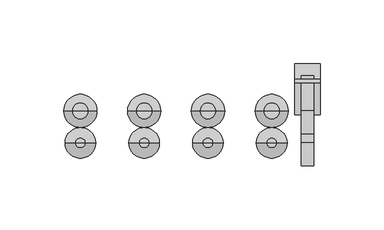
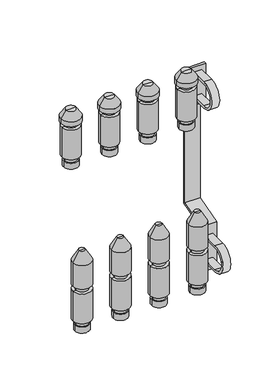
"""IFC4 building model written with IfcOpenShell, lengths in millimetres: valve geometry, PL CZ_Manifold_FT-VA : 04 circuits."""

from ifc_helpers import new_model, si_unit, point, frame, frame_2d, origin, origin_2d, place, context, project, spatial, polyline, circle_curve, trimmed, segment, composite_curve, outline, extrude, source, transform, mapped, element, save
from ifc_brep_helpers import plane_surface, cylinder_surface, revolved_surface, advanced_brep


def valve_cedec59f(model_context):
    return source(origin(), model_context, "Body", "SolidModel", [
        advanced_brep(
        [(128.5, 0.0, -35.11267), (147.5, 0.0, -35.11267), (138.0, 0.0, -35.11267), (128.5, 0.0, -27.0369646), (147.5, 0.0, -27.0369646), (130.0, 0.0, -27.0369646), (146.0, 0.0, -27.0369646), (130.0, 0.0, -20.330253), (146.0, 0.0, -20.330253), (126.0, 0.0, -20.330253), (150.0, 0.0, -20.330253), (126.0, 0.0, 20.330253), (150.0, 0.0, 20.330253), (130.0, 0.0, 20.330253), (146.0, 0.0, 20.330253), (130.0, 0.0, 27.0474786), (146.0, 0.0, 27.0474786), (126.0, 0.0, 27.0474786), (150.0, 0.0, 27.0474786), (126.0, 0.0, 59.4084325), (150.0, 0.0, 59.4084325), (134.0, 0.0, 73.264839), (142.0, 0.0, 73.264839), (138.0, 0.0, 73.264839)],
        [
            (0, 1, circle_curve(frame((138.0, 0.0, -35.11267), z_axis=(0.0, 0.0, -1.0), x_axis=(1.0, 0.0, 0.0)), 9.5)),
            (1, 2),
            (2, 0),
            (1, 0, circle_curve(frame((138.0, 0.0, -35.11267), z_axis=(0.0, 0.0, -1.0), x_axis=(1.0, 0.0, 0.0)), 9.5)),
            (3, 4, circle_curve(frame((138.0, 0.0, -27.0369646), z_axis=(0.0, 0.0, -1.0), x_axis=(1.0, 0.0, 0.0)), 9.5)),
            (4, 1),
            (0, 3),
            (4, 3, circle_curve(frame((138.0, 0.0, -27.0369646), z_axis=(0.0, 0.0, -1.0), x_axis=(1.0, 0.0, 0.0)), 9.5)),
            (5, 6, circle_curve(frame((138.0, 0.0, -27.0369646), z_axis=(0.0, 0.0, -1.0), x_axis=(1.0, 0.0, 0.0)), 8.0)),
            (6, 4),
            (3, 5),
            (6, 5, circle_curve(frame((138.0, 0.0, -27.0369646), z_axis=(0.0, 0.0, -1.0), x_axis=(1.0, 0.0, 0.0)), 8.0)),
            (7, 8, circle_curve(frame((138.0, 0.0, -20.330253), z_axis=(0.0, 0.0, -1.0), x_axis=(1.0, 0.0, 0.0)), 8.0)),
            (8, 6),
            (5, 7),
            (8, 7, circle_curve(frame((138.0, 0.0, -20.330253), z_axis=(0.0, 0.0, -1.0), x_axis=(1.0, 0.0, 0.0)), 8.0)),
            (9, 10, circle_curve(frame((138.0, 0.0, -20.330253), z_axis=(0.0, 0.0, -1.0), x_axis=(1.0, 0.0, 0.0)), 12.0)),
            (10, 8),
            (7, 9),
            (10, 9, circle_curve(frame((138.0, 0.0, -20.330253), z_axis=(0.0, 0.0, -1.0), x_axis=(1.0, 0.0, 0.0)), 12.0)),
            (11, 12, circle_curve(frame((138.0, 0.0, 20.330253), z_axis=(0.0, 0.0, -1.0), x_axis=(1.0, 0.0, 0.0)), 12.0)),
            (12, 10),
            (9, 11),
            (12, 11, circle_curve(frame((138.0, 0.0, 20.330253), z_axis=(0.0, 0.0, -1.0), x_axis=(1.0, 0.0, 0.0)), 12.0)),
            (13, 14, circle_curve(frame((138.0, 0.0, 20.330253), z_axis=(0.0, 0.0, -1.0), x_axis=(1.0, 0.0, 0.0)), 8.0)),
            (14, 12),
            (11, 13),
            (14, 13, circle_curve(frame((138.0, 0.0, 20.330253), z_axis=(0.0, 0.0, -1.0), x_axis=(1.0, 0.0, 0.0)), 8.0)),
            (15, 16, circle_curve(frame((138.0, 0.0, 27.0474786), z_axis=(0.0, 0.0, -1.0), x_axis=(1.0, 0.0, 0.0)), 8.0)),
            (16, 14),
            (13, 15),
            (16, 15, circle_curve(frame((138.0, 0.0, 27.0474786), z_axis=(0.0, 0.0, -1.0), x_axis=(1.0, 0.0, 0.0)), 8.0)),
            (17, 18, circle_curve(frame((138.0, 0.0, 27.0474786), z_axis=(0.0, 0.0, -1.0), x_axis=(1.0, 0.0, 0.0)), 12.0)),
            (18, 16),
            (15, 17),
            (18, 17, circle_curve(frame((138.0, 0.0, 27.0474786), z_axis=(0.0, 0.0, -1.0), x_axis=(1.0, 0.0, 0.0)), 12.0)),
            (19, 20, circle_curve(frame((138.0, 0.0, 59.4084325), z_axis=(0.0, 0.0, -1.0), x_axis=(1.0, 0.0, 0.0)), 12.0)),
            (20, 18),
            (17, 19),
            (20, 19, circle_curve(frame((138.0, 0.0, 59.4084325), z_axis=(0.0, 0.0, -1.0), x_axis=(1.0, 0.0, 0.0)), 12.0)),
            (21, 22, circle_curve(frame((138.0, 0.0, 73.264839), z_axis=(0.0, 0.0, -1.0), x_axis=(1.0, 0.0, 0.0)), 4.0)),
            (22, 20),
            (19, 21),
            (22, 21, circle_curve(frame((138.0, 0.0, 73.264839), z_axis=(0.0, 0.0, -1.0), x_axis=(1.0, 0.0, 0.0)), 4.0)),
            (23, 22),
            (21, 23),
        ],
        [
            plane_surface(frame((138.0, 0.0, -35.11267), z_axis=(0.0, 0.0, -1.0), x_axis=(1.0, 0.0, 0.0))),
            cylinder_surface(frame((138.0, 0.0, 58.264839), z_axis=(0.0, 0.0, 1.0), x_axis=(1.0, 0.0, 0.0)), 9.5),
            plane_surface(frame((138.0, 0.0, -27.0369646), z_axis=(0.0, 0.0, 1.0), x_axis=(1.0, 0.0, 0.0))),
            cylinder_surface(frame((138.0, 0.0, 58.264839), z_axis=(0.0, 0.0, 1.0), x_axis=(1.0, 0.0, 0.0)), 8.0),
            plane_surface(frame((138.0, 0.0, -20.330253), z_axis=(0.0, 0.0, -1.0), x_axis=(1.0, 0.0, 0.0))),
            cylinder_surface(frame((138.0, 0.0, 58.264839), z_axis=(0.0, 0.0, 1.0), x_axis=(1.0, 0.0, 0.0)), 12.0),
            plane_surface(frame((138.0, 0.0, 20.330253), z_axis=(0.0, 0.0, 1.0), x_axis=(1.0, 0.0, 0.0))),
            plane_surface(frame((138.0, 0.0, 27.0474786), z_axis=(0.0, 0.0, -1.0), x_axis=(1.0, 0.0, 0.0))),
            revolved_surface(polyline([(150.0, 0.0, 59.4084325), (142.0, 0.0, 73.264839)]), (138.0, 0.0, 58.264839), (0.0, 0.0, 1.0)),
            plane_surface(frame((138.0, 0.0, 73.264839), z_axis=(0.0, 0.0, 1.0), x_axis=(1.0, 0.0, 0.0))),
        ],
        [
            (0, [[1, 2, 3]]),
            (0, [[4, -3, -2]]),
            (1, [[5, 6, -1, 7]]),
            (1, [[8, -7, -4, -6]]),
            (2, [[9, 10, -5, 11]]),
            (2, [[12, -11, -8, -10]]),
            (3, [[13, 14, -9, 15]]),
            (3, [[16, -15, -12, -14]]),
            (4, [[17, 18, -13, 19]]),
            (4, [[20, -19, -16, -18]]),
            (5, [[21, 22, -17, 23]]),
            (5, [[24, -23, -20, -22]]),
            (6, [[25, 26, -21, 27]]),
            (6, [[28, -27, -24, -26]]),
            (3, [[29, 30, -25, 31]]),
            (3, [[32, -31, -28, -30]]),
            (7, [[33, 34, -29, 35]]),
            (7, [[36, -35, -32, -34]]),
            (5, [[37, 38, -33, 39]]),
            (5, [[40, -39, -36, -38]]),
            (8, [[41, 42, -37, 43]]),
            (8, [[44, -43, -40, -42]]),
            (9, [[45, -41, 46]]),
            (9, [[-46, -44, -45]]),
        ],
    ),
        advanced_brep(
        [(128.5, 25.0, 174.88733), (147.5, 25.0, 174.88733), (138.0, 25.0, 174.88733), (128.5, 25.0, 182.9630354), (147.5, 25.0, 182.9630354), (130.0, 25.0, 182.9630354), (146.0, 25.0, 182.9630354), (130.0, 25.0, 189.669747), (146.0, 25.0, 189.669747), (126.0, 25.0, 189.669747), (150.0, 25.0, 189.669747), (126.0, 25.0, 230.330253), (150.0, 25.0, 230.330253), (130.0, 25.0, 230.330253), (146.0, 25.0, 230.330253), (130.0, 25.0, 236.0474786), (146.0, 25.0, 236.0474786), (125.0, 25.0, 236.0474786), (151.0, 25.0, 236.0474786), (125.0, 25.0, 242.337955), (151.0, 25.0, 242.337955), (131.6551779, 25.0, 251.842534), (144.3448221, 25.0, 251.842534), (138.0, 25.0, 251.842534)],
        [
            (0, 1, circle_curve(frame((138.0, 25.0, 174.88733), z_axis=(0.0, 0.0, -1.0), x_axis=(1.0, 0.0, 0.0)), 9.5)),
            (1, 2),
            (2, 0),
            (1, 0, circle_curve(frame((138.0, 25.0, 174.88733), z_axis=(0.0, 0.0, -1.0), x_axis=(1.0, 0.0, 0.0)), 9.5)),
            (3, 4, circle_curve(frame((138.0, 25.0, 182.9630354), z_axis=(0.0, 0.0, -1.0), x_axis=(1.0, 0.0, 0.0)), 9.5)),
            (4, 1),
            (0, 3),
            (4, 3, circle_curve(frame((138.0, 25.0, 182.9630354), z_axis=(0.0, 0.0, -1.0), x_axis=(1.0, 0.0, 0.0)), 9.5)),
            (5, 6, circle_curve(frame((138.0, 25.0, 182.9630354), z_axis=(0.0, 0.0, -1.0), x_axis=(1.0, 0.0, 0.0)), 8.0)),
            (6, 4),
            (3, 5),
            (6, 5, circle_curve(frame((138.0, 25.0, 182.9630354), z_axis=(0.0, 0.0, -1.0), x_axis=(1.0, 0.0, 0.0)), 8.0)),
            (7, 8, circle_curve(frame((138.0, 25.0, 189.669747), z_axis=(0.0, 0.0, -1.0), x_axis=(1.0, 0.0, 0.0)), 8.0)),
            (8, 6),
            (5, 7),
            (8, 7, circle_curve(frame((138.0, 25.0, 189.669747), z_axis=(0.0, 0.0, -1.0), x_axis=(1.0, 0.0, 0.0)), 8.0)),
            (9, 10, circle_curve(frame((138.0, 25.0, 189.669747), z_axis=(0.0, 0.0, -1.0), x_axis=(1.0, 0.0, 0.0)), 12.0)),
            (10, 8),
            (7, 9),
            (10, 9, circle_curve(frame((138.0, 25.0, 189.669747), z_axis=(0.0, 0.0, -1.0), x_axis=(1.0, 0.0, 0.0)), 12.0)),
            (11, 12, circle_curve(frame((138.0, 25.0, 230.330253), z_axis=(0.0, 0.0, -1.0), x_axis=(1.0, 0.0, 0.0)), 12.0)),
            (12, 10),
            (9, 11),
            (12, 11, circle_curve(frame((138.0, 25.0, 230.330253), z_axis=(0.0, 0.0, -1.0), x_axis=(1.0, 0.0, 0.0)), 12.0)),
            (13, 14, circle_curve(frame((138.0, 25.0, 230.330253), z_axis=(0.0, 0.0, -1.0), x_axis=(1.0, 0.0, 0.0)), 8.0)),
            (14, 12),
            (11, 13),
            (14, 13, circle_curve(frame((138.0, 25.0, 230.330253), z_axis=(0.0, 0.0, -1.0), x_axis=(1.0, 0.0, 0.0)), 8.0)),
            (15, 16, circle_curve(frame((138.0, 25.0, 236.0474786), z_axis=(0.0, 0.0, -1.0), x_axis=(1.0, 0.0, 0.0)), 8.0)),
            (16, 14),
            (13, 15),
            (16, 15, circle_curve(frame((138.0, 25.0, 236.0474786), z_axis=(0.0, 0.0, -1.0), x_axis=(1.0, 0.0, 0.0)), 8.0)),
            (17, 18, circle_curve(frame((138.0, 25.0, 236.0474786), z_axis=(0.0, 0.0, -1.0), x_axis=(1.0, 0.0, 0.0)), 13.0)),
            (18, 16),
            (15, 17),
            (18, 17, circle_curve(frame((138.0, 25.0, 236.0474786), z_axis=(0.0, 0.0, -1.0), x_axis=(1.0, 0.0, 0.0)), 13.0)),
            (19, 20, circle_curve(frame((138.0, 25.0, 242.337955), z_axis=(0.0, 0.0, -1.0), x_axis=(1.0, 0.0, 0.0)), 13.0)),
            (20, 18),
            (17, 19),
            (20, 19, circle_curve(frame((138.0, 25.0, 242.337955), z_axis=(0.0, 0.0, -1.0), x_axis=(1.0, 0.0, 0.0)), 13.0)),
            (21, 22, circle_curve(frame((138.0, 25.0, 251.842534), z_axis=(0.0, 0.0, -1.0), x_axis=(1.0, 0.0, 0.0)), 6.3448221)),
            (22, 20),
            (19, 21),
            (22, 21, circle_curve(frame((138.0, 25.0, 251.842534), z_axis=(0.0, 0.0, -1.0), x_axis=(1.0, 0.0, 0.0)), 6.3448221)),
            (23, 22),
            (21, 23),
        ],
        [
            plane_surface(frame((138.0, 25.0, 174.88733), z_axis=(0.0, 0.0, -1.0), x_axis=(1.0, 0.0, 0.0))),
            cylinder_surface(frame((138.0, 25.0, 247.7026565), z_axis=(0.0, 0.0, 1.0), x_axis=(1.0, 0.0, 0.0)), 9.5),
            plane_surface(frame((138.0, 25.0, 182.9630354), z_axis=(0.0, 0.0, 1.0), x_axis=(1.0, 0.0, 0.0))),
            cylinder_surface(frame((138.0, 25.0, 247.7026565), z_axis=(0.0, 0.0, 1.0), x_axis=(1.0, 0.0, 0.0)), 8.0),
            plane_surface(frame((138.0, 25.0, 189.669747), z_axis=(0.0, 0.0, -1.0), x_axis=(1.0, 0.0, 0.0))),
            cylinder_surface(frame((138.0, 25.0, 247.7026565), z_axis=(0.0, 0.0, 1.0), x_axis=(1.0, 0.0, 0.0)), 12.0),
            plane_surface(frame((138.0, 25.0, 230.330253), z_axis=(0.0, 0.0, 1.0), x_axis=(1.0, 0.0, 0.0))),
            plane_surface(frame((138.0, 25.0, 236.0474786), z_axis=(0.0, 0.0, -1.0), x_axis=(1.0, 0.0, 0.0))),
            cylinder_surface(frame((138.0, 25.0, 247.7026565), z_axis=(0.0, 0.0, 1.0), x_axis=(1.0, 0.0, 0.0)), 13.0),
            revolved_surface(polyline([(151.0, 25.0, 242.337955), (144.3448221, 25.0, 251.842534)]), (138.0, 25.0, 247.7026565), (0.0, 0.0, 1.0)),
            plane_surface(frame((138.0, 25.0, 251.842534), z_axis=(0.0, 0.0, 1.0), x_axis=(1.0, 0.0, 0.0))),
        ],
        [
            (0, [[1, 2, 3]]),
            (0, [[4, -3, -2]]),
            (1, [[5, 6, -1, 7]]),
            (1, [[8, -7, -4, -6]]),
            (2, [[9, 10, -5, 11]]),
            (2, [[12, -11, -8, -10]]),
            (3, [[13, 14, -9, 15]]),
            (3, [[16, -15, -12, -14]]),
            (4, [[17, 18, -13, 19]]),
            (4, [[20, -19, -16, -18]]),
            (5, [[21, 22, -17, 23]]),
            (5, [[24, -23, -20, -22]]),
            (6, [[25, 26, -21, 27]]),
            (6, [[28, -27, -24, -26]]),
            (3, [[29, 30, -25, 31]]),
            (3, [[32, -31, -28, -30]]),
            (7, [[33, 34, -29, 35]]),
            (7, [[36, -35, -32, -34]]),
            (8, [[37, 38, -33, 39]]),
            (8, [[40, -39, -36, -38]]),
            (9, [[41, 42, -37, 43]]),
            (9, [[44, -43, -40, -42]]),
            (10, [[45, -41, 46]]),
            (10, [[-46, -44, -45]]),
        ],
    ),
        advanced_brep(
        [(78.5, 0.0, -35.11267), (97.5, 0.0, -35.11267), (88.0, 0.0, -35.11267), (78.5, 0.0, -27.0369646), (97.5, 0.0, -27.0369646), (80.0, 0.0, -27.0369646), (96.0, 0.0, -27.0369646), (80.0, 0.0, -20.330253), (96.0, 0.0, -20.330253), (76.0, 0.0, -20.330253), (100.0, 0.0, -20.330253), (76.0, 0.0, 20.330253), (100.0, 0.0, 20.330253), (80.0, 0.0, 20.330253), (96.0, 0.0, 20.330253), (80.0, 0.0, 27.0474786), (96.0, 0.0, 27.0474786), (76.0, 0.0, 27.0474786), (100.0, 0.0, 27.0474786), (76.0, 0.0, 59.4084325), (100.0, 0.0, 59.4084325), (84.0, 0.0, 73.264839), (92.0, 0.0, 73.264839), (88.0, 0.0, 73.264839)],
        [
            (0, 1, circle_curve(frame((88.0, 0.0, -35.11267), z_axis=(0.0, 0.0, -1.0), x_axis=(1.0, 0.0, 0.0)), 9.5)),
            (1, 2),
            (2, 0),
            (1, 0, circle_curve(frame((88.0, 0.0, -35.11267), z_axis=(0.0, 0.0, -1.0), x_axis=(1.0, 0.0, 0.0)), 9.5)),
            (3, 4, circle_curve(frame((88.0, 0.0, -27.0369646), z_axis=(0.0, 0.0, -1.0), x_axis=(1.0, 0.0, 0.0)), 9.5)),
            (4, 1),
            (0, 3),
            (4, 3, circle_curve(frame((88.0, 0.0, -27.0369646), z_axis=(0.0, 0.0, -1.0), x_axis=(1.0, 0.0, 0.0)), 9.5)),
            (5, 6, circle_curve(frame((88.0, 0.0, -27.0369646), z_axis=(0.0, 0.0, -1.0), x_axis=(1.0, 0.0, 0.0)), 8.0)),
            (6, 4),
            (3, 5),
            (6, 5, circle_curve(frame((88.0, 0.0, -27.0369646), z_axis=(0.0, 0.0, -1.0), x_axis=(1.0, 0.0, 0.0)), 8.0)),
            (7, 8, circle_curve(frame((88.0, 0.0, -20.330253), z_axis=(0.0, 0.0, -1.0), x_axis=(1.0, 0.0, 0.0)), 8.0)),
            (8, 6),
            (5, 7),
            (8, 7, circle_curve(frame((88.0, 0.0, -20.330253), z_axis=(0.0, 0.0, -1.0), x_axis=(1.0, 0.0, 0.0)), 8.0)),
            (9, 10, circle_curve(frame((88.0, 0.0, -20.330253), z_axis=(0.0, 0.0, -1.0), x_axis=(1.0, 0.0, 0.0)), 12.0)),
            (10, 8),
            (7, 9),
            (10, 9, circle_curve(frame((88.0, 0.0, -20.330253), z_axis=(0.0, 0.0, -1.0), x_axis=(1.0, 0.0, 0.0)), 12.0)),
            (11, 12, circle_curve(frame((88.0, 0.0, 20.330253), z_axis=(0.0, 0.0, -1.0), x_axis=(1.0, 0.0, 0.0)), 12.0)),
            (12, 10),
            (9, 11),
            (12, 11, circle_curve(frame((88.0, 0.0, 20.330253), z_axis=(0.0, 0.0, -1.0), x_axis=(1.0, 0.0, 0.0)), 12.0)),
            (13, 14, circle_curve(frame((88.0, 0.0, 20.330253), z_axis=(0.0, 0.0, -1.0), x_axis=(1.0, 0.0, 0.0)), 8.0)),
            (14, 12),
            (11, 13),
            (14, 13, circle_curve(frame((88.0, 0.0, 20.330253), z_axis=(0.0, 0.0, -1.0), x_axis=(1.0, 0.0, 0.0)), 8.0)),
            (15, 16, circle_curve(frame((88.0, 0.0, 27.0474786), z_axis=(0.0, 0.0, -1.0), x_axis=(1.0, 0.0, 0.0)), 8.0)),
            (16, 14),
            (13, 15),
            (16, 15, circle_curve(frame((88.0, 0.0, 27.0474786), z_axis=(0.0, 0.0, -1.0), x_axis=(1.0, 0.0, 0.0)), 8.0)),
            (17, 18, circle_curve(frame((88.0, 0.0, 27.0474786), z_axis=(0.0, 0.0, -1.0), x_axis=(1.0, 0.0, 0.0)), 12.0)),
            (18, 16),
            (15, 17),
            (18, 17, circle_curve(frame((88.0, 0.0, 27.0474786), z_axis=(0.0, 0.0, -1.0), x_axis=(1.0, 0.0, 0.0)), 12.0)),
            (19, 20, circle_curve(frame((88.0, 0.0, 59.4084325), z_axis=(0.0, 0.0, -1.0), x_axis=(1.0, 0.0, 0.0)), 12.0)),
            (20, 18),
            (17, 19),
            (20, 19, circle_curve(frame((88.0, 0.0, 59.4084325), z_axis=(0.0, 0.0, -1.0), x_axis=(1.0, 0.0, 0.0)), 12.0)),
            (21, 22, circle_curve(frame((88.0, 0.0, 73.264839), z_axis=(0.0, 0.0, -1.0), x_axis=(1.0, 0.0, 0.0)), 4.0)),
            (22, 20),
            (19, 21),
            (22, 21, circle_curve(frame((88.0, 0.0, 73.264839), z_axis=(0.0, 0.0, -1.0), x_axis=(1.0, 0.0, 0.0)), 4.0)),
            (23, 22),
            (21, 23),
        ],
        [
            plane_surface(frame((88.0, 0.0, -35.11267), z_axis=(0.0, 0.0, -1.0), x_axis=(1.0, 0.0, 0.0))),
            cylinder_surface(frame((88.0, 0.0, 58.264839), z_axis=(0.0, 0.0, 1.0), x_axis=(1.0, 0.0, 0.0)), 9.5),
            plane_surface(frame((88.0, 0.0, -27.0369646), z_axis=(0.0, 0.0, 1.0), x_axis=(1.0, 0.0, 0.0))),
            cylinder_surface(frame((88.0, 0.0, 58.264839), z_axis=(0.0, 0.0, 1.0), x_axis=(1.0, 0.0, 0.0)), 8.0),
            plane_surface(frame((88.0, 0.0, -20.330253), z_axis=(0.0, 0.0, -1.0), x_axis=(1.0, 0.0, 0.0))),
            cylinder_surface(frame((88.0, 0.0, 58.264839), z_axis=(0.0, 0.0, 1.0), x_axis=(1.0, 0.0, 0.0)), 12.0),
            plane_surface(frame((88.0, 0.0, 20.330253), z_axis=(0.0, 0.0, 1.0), x_axis=(1.0, 0.0, 0.0))),
            plane_surface(frame((88.0, 0.0, 27.0474786), z_axis=(0.0, 0.0, -1.0), x_axis=(1.0, 0.0, 0.0))),
            revolved_surface(polyline([(100.0, 0.0, 59.4084325), (92.0, 0.0, 73.264839)]), (88.0, 0.0, 58.264839), (0.0, 0.0, 1.0)),
            plane_surface(frame((88.0, 0.0, 73.264839), z_axis=(0.0, 0.0, 1.0), x_axis=(1.0, 0.0, 0.0))),
        ],
        [
            (0, [[1, 2, 3]]),
            (0, [[4, -3, -2]]),
            (1, [[5, 6, -1, 7]]),
            (1, [[8, -7, -4, -6]]),
            (2, [[9, 10, -5, 11]]),
            (2, [[12, -11, -8, -10]]),
            (3, [[13, 14, -9, 15]]),
            (3, [[16, -15, -12, -14]]),
            (4, [[17, 18, -13, 19]]),
            (4, [[20, -19, -16, -18]]),
            (5, [[21, 22, -17, 23]]),
            (5, [[24, -23, -20, -22]]),
            (6, [[25, 26, -21, 27]]),
            (6, [[28, -27, -24, -26]]),
            (3, [[29, 30, -25, 31]]),
            (3, [[32, -31, -28, -30]]),
            (7, [[33, 34, -29, 35]]),
            (7, [[36, -35, -32, -34]]),
            (5, [[37, 38, -33, 39]]),
            (5, [[40, -39, -36, -38]]),
            (8, [[41, 42, -37, 43]]),
            (8, [[44, -43, -40, -42]]),
            (9, [[45, -41, 46]]),
            (9, [[-46, -44, -45]]),
        ],
    ),
        advanced_brep(
        [(78.5, 25.0, 174.88733), (97.5, 25.0, 174.88733), (88.0, 25.0, 174.88733), (78.5, 25.0, 182.9630354), (97.5, 25.0, 182.9630354), (80.0, 25.0, 182.9630354), (96.0, 25.0, 182.9630354), (80.0, 25.0, 189.669747), (96.0, 25.0, 189.669747), (76.0, 25.0, 189.669747), (100.0, 25.0, 189.669747), (76.0, 25.0, 230.330253), (100.0, 25.0, 230.330253), (80.0, 25.0, 230.330253), (96.0, 25.0, 230.330253), (80.0, 25.0, 236.0474786), (96.0, 25.0, 236.0474786), (75.0, 25.0, 236.0474786), (101.0, 25.0, 236.0474786), (75.0, 25.0, 242.337955), (101.0, 25.0, 242.337955), (81.6551779, 25.0, 251.842534), (94.3448221, 25.0, 251.842534), (88.0, 25.0, 251.842534)],
        [
            (0, 1, circle_curve(frame((88.0, 25.0, 174.88733), z_axis=(0.0, 0.0, -1.0), x_axis=(1.0, 0.0, 0.0)), 9.5)),
            (1, 2),
            (2, 0),
            (1, 0, circle_curve(frame((88.0, 25.0, 174.88733), z_axis=(0.0, 0.0, -1.0), x_axis=(1.0, 0.0, 0.0)), 9.5)),
            (3, 4, circle_curve(frame((88.0, 25.0, 182.9630354), z_axis=(0.0, 0.0, -1.0), x_axis=(1.0, 0.0, 0.0)), 9.5)),
            (4, 1),
            (0, 3),
            (4, 3, circle_curve(frame((88.0, 25.0, 182.9630354), z_axis=(0.0, 0.0, -1.0), x_axis=(1.0, 0.0, 0.0)), 9.5)),
            (5, 6, circle_curve(frame((88.0, 25.0, 182.9630354), z_axis=(0.0, 0.0, -1.0), x_axis=(1.0, 0.0, 0.0)), 8.0)),
            (6, 4),
            (3, 5),
            (6, 5, circle_curve(frame((88.0, 25.0, 182.9630354), z_axis=(0.0, 0.0, -1.0), x_axis=(1.0, 0.0, 0.0)), 8.0)),
            (7, 8, circle_curve(frame((88.0, 25.0, 189.669747), z_axis=(0.0, 0.0, -1.0), x_axis=(1.0, 0.0, 0.0)), 8.0)),
            (8, 6),
            (5, 7),
            (8, 7, circle_curve(frame((88.0, 25.0, 189.669747), z_axis=(0.0, 0.0, -1.0), x_axis=(1.0, 0.0, 0.0)), 8.0)),
            (9, 10, circle_curve(frame((88.0, 25.0, 189.669747), z_axis=(0.0, 0.0, -1.0), x_axis=(1.0, 0.0, 0.0)), 12.0)),
            (10, 8),
            (7, 9),
            (10, 9, circle_curve(frame((88.0, 25.0, 189.669747), z_axis=(0.0, 0.0, -1.0), x_axis=(1.0, 0.0, 0.0)), 12.0)),
            (11, 12, circle_curve(frame((88.0, 25.0, 230.330253), z_axis=(0.0, 0.0, -1.0), x_axis=(1.0, 0.0, 0.0)), 12.0)),
            (12, 10),
            (9, 11),
            (12, 11, circle_curve(frame((88.0, 25.0, 230.330253), z_axis=(0.0, 0.0, -1.0), x_axis=(1.0, 0.0, 0.0)), 12.0)),
            (13, 14, circle_curve(frame((88.0, 25.0, 230.330253), z_axis=(0.0, 0.0, -1.0), x_axis=(1.0, 0.0, 0.0)), 8.0)),
            (14, 12),
            (11, 13),
            (14, 13, circle_curve(frame((88.0, 25.0, 230.330253), z_axis=(0.0, 0.0, -1.0), x_axis=(1.0, 0.0, 0.0)), 8.0)),
            (15, 16, circle_curve(frame((88.0, 25.0, 236.0474786), z_axis=(0.0, 0.0, -1.0), x_axis=(1.0, 0.0, 0.0)), 8.0)),
            (16, 14),
            (13, 15),
            (16, 15, circle_curve(frame((88.0, 25.0, 236.0474786), z_axis=(0.0, 0.0, -1.0), x_axis=(1.0, 0.0, 0.0)), 8.0)),
            (17, 18, circle_curve(frame((88.0, 25.0, 236.0474786), z_axis=(0.0, 0.0, -1.0), x_axis=(1.0, 0.0, 0.0)), 13.0)),
            (18, 16),
            (15, 17),
            (18, 17, circle_curve(frame((88.0, 25.0, 236.0474786), z_axis=(0.0, 0.0, -1.0), x_axis=(1.0, 0.0, 0.0)), 13.0)),
            (19, 20, circle_curve(frame((88.0, 25.0, 242.337955), z_axis=(0.0, 0.0, -1.0), x_axis=(1.0, 0.0, 0.0)), 13.0)),
            (20, 18),
            (17, 19),
            (20, 19, circle_curve(frame((88.0, 25.0, 242.337955), z_axis=(0.0, 0.0, -1.0), x_axis=(1.0, 0.0, 0.0)), 13.0)),
            (21, 22, circle_curve(frame((88.0, 25.0, 251.842534), z_axis=(0.0, 0.0, -1.0), x_axis=(1.0, 0.0, 0.0)), 6.3448221)),
            (22, 20),
            (19, 21),
            (22, 21, circle_curve(frame((88.0, 25.0, 251.842534), z_axis=(0.0, 0.0, -1.0), x_axis=(1.0, 0.0, 0.0)), 6.3448221)),
            (23, 22),
            (21, 23),
        ],
        [
            plane_surface(frame((88.0, 25.0, 174.88733), z_axis=(0.0, 0.0, -1.0), x_axis=(1.0, 0.0, 0.0))),
            cylinder_surface(frame((88.0, 25.0, 247.7026565), z_axis=(0.0, 0.0, 1.0), x_axis=(1.0, 0.0, 0.0)), 9.5),
            plane_surface(frame((88.0, 25.0, 182.9630354), z_axis=(0.0, 0.0, 1.0), x_axis=(1.0, 0.0, 0.0))),
            cylinder_surface(frame((88.0, 25.0, 247.7026565), z_axis=(0.0, 0.0, 1.0), x_axis=(1.0, 0.0, 0.0)), 8.0),
            plane_surface(frame((88.0, 25.0, 189.669747), z_axis=(0.0, 0.0, -1.0), x_axis=(1.0, 0.0, 0.0))),
            cylinder_surface(frame((88.0, 25.0, 247.7026565), z_axis=(0.0, 0.0, 1.0), x_axis=(1.0, 0.0, 0.0)), 12.0),
            plane_surface(frame((88.0, 25.0, 230.330253), z_axis=(0.0, 0.0, 1.0), x_axis=(1.0, 0.0, 0.0))),
            plane_surface(frame((88.0, 25.0, 236.0474786), z_axis=(0.0, 0.0, -1.0), x_axis=(1.0, 0.0, 0.0))),
            cylinder_surface(frame((88.0, 25.0, 247.7026565), z_axis=(0.0, 0.0, 1.0), x_axis=(1.0, 0.0, 0.0)), 13.0),
            revolved_surface(polyline([(101.0, 25.0, 242.337955), (94.3448221, 25.0, 251.842534)]), (88.0, 25.0, 247.7026565), (0.0, 0.0, 1.0)),
            plane_surface(frame((88.0, 25.0, 251.842534), z_axis=(0.0, 0.0, 1.0), x_axis=(1.0, 0.0, 0.0))),
        ],
        [
            (0, [[1, 2, 3]]),
            (0, [[4, -3, -2]]),
            (1, [[5, 6, -1, 7]]),
            (1, [[8, -7, -4, -6]]),
            (2, [[9, 10, -5, 11]]),
            (2, [[12, -11, -8, -10]]),
            (3, [[13, 14, -9, 15]]),
            (3, [[16, -15, -12, -14]]),
            (4, [[17, 18, -13, 19]]),
            (4, [[20, -19, -16, -18]]),
            (5, [[21, 22, -17, 23]]),
            (5, [[24, -23, -20, -22]]),
            (6, [[25, 26, -21, 27]]),
            (6, [[28, -27, -24, -26]]),
            (3, [[29, 30, -25, 31]]),
            (3, [[32, -31, -28, -30]]),
            (7, [[33, 34, -29, 35]]),
            (7, [[36, -35, -32, -34]]),
            (8, [[37, 38, -33, 39]]),
            (8, [[40, -39, -36, -38]]),
            (9, [[41, 42, -37, 43]]),
            (9, [[44, -43, -40, -42]]),
            (10, [[45, -41, 46]]),
            (10, [[-46, -44, -45]]),
        ],
    ),
        advanced_brep(
        [(178.5, 0.0, -35.11267), (197.5, 0.0, -35.11267), (188.0, 0.0, -35.11267), (178.5, 0.0, -27.0369646), (197.5, 0.0, -27.0369646), (180.0, 0.0, -27.0369646), (196.0, 0.0, -27.0369646), (180.0, 0.0, -20.330253), (196.0, 0.0, -20.330253), (176.0, 0.0, -20.330253), (200.0, 0.0, -20.330253), (176.0, 0.0, 20.330253), (200.0, 0.0, 20.330253), (180.0, 0.0, 20.330253), (196.0, 0.0, 20.330253), (180.0, 0.0, 27.0474786), (196.0, 0.0, 27.0474786), (176.0, 0.0, 27.0474786), (200.0, 0.0, 27.0474786), (176.0, 0.0, 59.4084325), (200.0, 0.0, 59.4084325), (184.0, 0.0, 73.264839), (192.0, 0.0, 73.264839), (188.0, 0.0, 73.264839)],
        [
            (0, 1, circle_curve(frame((188.0, 0.0, -35.11267), z_axis=(0.0, 0.0, -1.0), x_axis=(1.0, 0.0, 0.0)), 9.5)),
            (1, 2),
            (2, 0),
            (1, 0, circle_curve(frame((188.0, 0.0, -35.11267), z_axis=(0.0, 0.0, -1.0), x_axis=(1.0, 0.0, 0.0)), 9.5)),
            (3, 4, circle_curve(frame((188.0, 0.0, -27.0369646), z_axis=(0.0, 0.0, -1.0), x_axis=(1.0, 0.0, 0.0)), 9.5)),
            (4, 1),
            (0, 3),
            (4, 3, circle_curve(frame((188.0, 0.0, -27.0369646), z_axis=(0.0, 0.0, -1.0), x_axis=(1.0, 0.0, 0.0)), 9.5)),
            (5, 6, circle_curve(frame((188.0, 0.0, -27.0369646), z_axis=(0.0, 0.0, -1.0), x_axis=(1.0, 0.0, 0.0)), 8.0)),
            (6, 4),
            (3, 5),
            (6, 5, circle_curve(frame((188.0, 0.0, -27.0369646), z_axis=(0.0, 0.0, -1.0), x_axis=(1.0, 0.0, 0.0)), 8.0)),
            (7, 8, circle_curve(frame((188.0, 0.0, -20.330253), z_axis=(0.0, 0.0, -1.0), x_axis=(1.0, 0.0, 0.0)), 8.0)),
            (8, 6),
            (5, 7),
            (8, 7, circle_curve(frame((188.0, 0.0, -20.330253), z_axis=(0.0, 0.0, -1.0), x_axis=(1.0, 0.0, 0.0)), 8.0)),
            (9, 10, circle_curve(frame((188.0, 0.0, -20.330253), z_axis=(0.0, 0.0, -1.0), x_axis=(1.0, 0.0, 0.0)), 12.0)),
            (10, 8),
            (7, 9),
            (10, 9, circle_curve(frame((188.0, 0.0, -20.330253), z_axis=(0.0, 0.0, -1.0), x_axis=(1.0, 0.0, 0.0)), 12.0)),
            (11, 12, circle_curve(frame((188.0, 0.0, 20.330253), z_axis=(0.0, 0.0, -1.0), x_axis=(1.0, 0.0, 0.0)), 12.0)),
            (12, 10),
            (9, 11),
            (12, 11, circle_curve(frame((188.0, 0.0, 20.330253), z_axis=(0.0, 0.0, -1.0), x_axis=(1.0, 0.0, 0.0)), 12.0)),
            (13, 14, circle_curve(frame((188.0, 0.0, 20.330253), z_axis=(0.0, 0.0, -1.0), x_axis=(1.0, 0.0, 0.0)), 8.0)),
            (14, 12),
            (11, 13),
            (14, 13, circle_curve(frame((188.0, 0.0, 20.330253), z_axis=(0.0, 0.0, -1.0), x_axis=(1.0, 0.0, 0.0)), 8.0)),
            (15, 16, circle_curve(frame((188.0, 0.0, 27.0474786), z_axis=(0.0, 0.0, -1.0), x_axis=(1.0, 0.0, 0.0)), 8.0)),
            (16, 14),
            (13, 15),
            (16, 15, circle_curve(frame((188.0, 0.0, 27.0474786), z_axis=(0.0, 0.0, -1.0), x_axis=(1.0, 0.0, 0.0)), 8.0)),
            (17, 18, circle_curve(frame((188.0, 0.0, 27.0474786), z_axis=(0.0, 0.0, -1.0), x_axis=(1.0, 0.0, 0.0)), 12.0)),
            (18, 16),
            (15, 17),
            (18, 17, circle_curve(frame((188.0, 0.0, 27.0474786), z_axis=(0.0, 0.0, -1.0), x_axis=(1.0, 0.0, 0.0)), 12.0)),
            (19, 20, circle_curve(frame((188.0, 0.0, 59.4084325), z_axis=(0.0, 0.0, -1.0), x_axis=(1.0, 0.0, 0.0)), 12.0)),
            (20, 18),
            (17, 19),
            (20, 19, circle_curve(frame((188.0, 0.0, 59.4084325), z_axis=(0.0, 0.0, -1.0), x_axis=(1.0, 0.0, 0.0)), 12.0)),
            (21, 22, circle_curve(frame((188.0, 0.0, 73.264839), z_axis=(0.0, 0.0, -1.0), x_axis=(1.0, 0.0, 0.0)), 4.0)),
            (22, 20),
            (19, 21),
            (22, 21, circle_curve(frame((188.0, 0.0, 73.264839), z_axis=(0.0, 0.0, -1.0), x_axis=(1.0, 0.0, 0.0)), 4.0)),
            (23, 22),
            (21, 23),
        ],
        [
            plane_surface(frame((188.0, 0.0, -35.11267), z_axis=(0.0, 0.0, -1.0), x_axis=(1.0, 0.0, 0.0))),
            cylinder_surface(frame((188.0, 0.0, 58.264839), z_axis=(0.0, 0.0, 1.0), x_axis=(1.0, 0.0, 0.0)), 9.5),
            plane_surface(frame((188.0, 0.0, -27.0369646), z_axis=(0.0, 0.0, 1.0), x_axis=(1.0, 0.0, 0.0))),
            cylinder_surface(frame((188.0, 0.0, 58.264839), z_axis=(0.0, 0.0, 1.0), x_axis=(1.0, 0.0, 0.0)), 8.0),
            plane_surface(frame((188.0, 0.0, -20.330253), z_axis=(0.0, 0.0, -1.0), x_axis=(1.0, 0.0, 0.0))),
            cylinder_surface(frame((188.0, 0.0, 58.264839), z_axis=(0.0, 0.0, 1.0), x_axis=(1.0, 0.0, 0.0)), 12.0),
            plane_surface(frame((188.0, 0.0, 20.330253), z_axis=(0.0, 0.0, 1.0), x_axis=(1.0, 0.0, 0.0))),
            plane_surface(frame((188.0, 0.0, 27.0474786), z_axis=(0.0, 0.0, -1.0), x_axis=(1.0, 0.0, 0.0))),
            revolved_surface(polyline([(200.0, 0.0, 59.4084325), (192.0, 0.0, 73.264839)]), (188.0, 0.0, 58.264839), (0.0, 0.0, 1.0)),
            plane_surface(frame((188.0, 0.0, 73.264839), z_axis=(0.0, 0.0, 1.0), x_axis=(1.0, 0.0, 0.0))),
        ],
        [
            (0, [[1, 2, 3]]),
            (0, [[4, -3, -2]]),
            (1, [[5, 6, -1, 7]]),
            (1, [[8, -7, -4, -6]]),
            (2, [[9, 10, -5, 11]]),
            (2, [[12, -11, -8, -10]]),
            (3, [[13, 14, -9, 15]]),
            (3, [[16, -15, -12, -14]]),
            (4, [[17, 18, -13, 19]]),
            (4, [[20, -19, -16, -18]]),
            (5, [[21, 22, -17, 23]]),
            (5, [[24, -23, -20, -22]]),
            (6, [[25, 26, -21, 27]]),
            (6, [[28, -27, -24, -26]]),
            (3, [[29, 30, -25, 31]]),
            (3, [[32, -31, -28, -30]]),
            (7, [[33, 34, -29, 35]]),
            (7, [[36, -35, -32, -34]]),
            (5, [[37, 38, -33, 39]]),
            (5, [[40, -39, -36, -38]]),
            (8, [[41, 42, -37, 43]]),
            (8, [[44, -43, -40, -42]]),
            (9, [[45, -41, 46]]),
            (9, [[-46, -44, -45]]),
        ],
    ),
        advanced_brep(
        [(178.5, 25.0, 174.88733), (197.5, 25.0, 174.88733), (188.0, 25.0, 174.88733), (178.5, 25.0, 182.9630354), (197.5, 25.0, 182.9630354), (180.0, 25.0, 182.9630354), (196.0, 25.0, 182.9630354), (180.0, 25.0, 189.669747), (196.0, 25.0, 189.669747), (176.0, 25.0, 189.669747), (200.0, 25.0, 189.669747), (176.0, 25.0, 230.330253), (200.0, 25.0, 230.330253), (180.0, 25.0, 230.330253), (196.0, 25.0, 230.330253), (180.0, 25.0, 236.0474786), (196.0, 25.0, 236.0474786), (175.0, 25.0, 236.0474786), (201.0, 25.0, 236.0474786), (175.0, 25.0, 242.337955), (201.0, 25.0, 242.337955), (181.6551779, 25.0, 251.842534), (194.3448221, 25.0, 251.842534), (188.0, 25.0, 251.842534)],
        [
            (0, 1, circle_curve(frame((188.0, 25.0, 174.88733), z_axis=(0.0, 0.0, -1.0), x_axis=(1.0, 0.0, 0.0)), 9.5)),
            (1, 2),
            (2, 0),
            (1, 0, circle_curve(frame((188.0, 25.0, 174.88733), z_axis=(0.0, 0.0, -1.0), x_axis=(1.0, 0.0, 0.0)), 9.5)),
            (3, 4, circle_curve(frame((188.0, 25.0, 182.9630354), z_axis=(0.0, 0.0, -1.0), x_axis=(1.0, 0.0, 0.0)), 9.5)),
            (4, 1),
            (0, 3),
            (4, 3, circle_curve(frame((188.0, 25.0, 182.9630354), z_axis=(0.0, 0.0, -1.0), x_axis=(1.0, 0.0, 0.0)), 9.5)),
            (5, 6, circle_curve(frame((188.0, 25.0, 182.9630354), z_axis=(0.0, 0.0, -1.0), x_axis=(1.0, 0.0, 0.0)), 8.0)),
            (6, 4),
            (3, 5),
            (6, 5, circle_curve(frame((188.0, 25.0, 182.9630354), z_axis=(0.0, 0.0, -1.0), x_axis=(1.0, 0.0, 0.0)), 8.0)),
            (7, 8, circle_curve(frame((188.0, 25.0, 189.669747), z_axis=(0.0, 0.0, -1.0), x_axis=(1.0, 0.0, 0.0)), 8.0)),
            (8, 6),
            (5, 7),
            (8, 7, circle_curve(frame((188.0, 25.0, 189.669747), z_axis=(0.0, 0.0, -1.0), x_axis=(1.0, 0.0, 0.0)), 8.0)),
            (9, 10, circle_curve(frame((188.0, 25.0, 189.669747), z_axis=(0.0, 0.0, -1.0), x_axis=(1.0, 0.0, 0.0)), 12.0)),
            (10, 8),
            (7, 9),
            (10, 9, circle_curve(frame((188.0, 25.0, 189.669747), z_axis=(0.0, 0.0, -1.0), x_axis=(1.0, 0.0, 0.0)), 12.0)),
            (11, 12, circle_curve(frame((188.0, 25.0, 230.330253), z_axis=(0.0, 0.0, -1.0), x_axis=(1.0, 0.0, 0.0)), 12.0)),
            (12, 10),
            (9, 11),
            (12, 11, circle_curve(frame((188.0, 25.0, 230.330253), z_axis=(0.0, 0.0, -1.0), x_axis=(1.0, 0.0, 0.0)), 12.0)),
            (13, 14, circle_curve(frame((188.0, 25.0, 230.330253), z_axis=(0.0, 0.0, -1.0), x_axis=(1.0, 0.0, 0.0)), 8.0)),
            (14, 12),
            (11, 13),
            (14, 13, circle_curve(frame((188.0, 25.0, 230.330253), z_axis=(0.0, 0.0, -1.0), x_axis=(1.0, 0.0, 0.0)), 8.0)),
            (15, 16, circle_curve(frame((188.0, 25.0, 236.0474786), z_axis=(0.0, 0.0, -1.0), x_axis=(1.0, 0.0, 0.0)), 8.0)),
            (16, 14),
            (13, 15),
            (16, 15, circle_curve(frame((188.0, 25.0, 236.0474786), z_axis=(0.0, 0.0, -1.0), x_axis=(1.0, 0.0, 0.0)), 8.0)),
            (17, 18, circle_curve(frame((188.0, 25.0, 236.0474786), z_axis=(0.0, 0.0, -1.0), x_axis=(1.0, 0.0, 0.0)), 13.0)),
            (18, 16),
            (15, 17),
            (18, 17, circle_curve(frame((188.0, 25.0, 236.0474786), z_axis=(0.0, 0.0, -1.0), x_axis=(1.0, 0.0, 0.0)), 13.0)),
            (19, 20, circle_curve(frame((188.0, 25.0, 242.337955), z_axis=(0.0, 0.0, -1.0), x_axis=(1.0, 0.0, 0.0)), 13.0)),
            (20, 18),
            (17, 19),
            (20, 19, circle_curve(frame((188.0, 25.0, 242.337955), z_axis=(0.0, 0.0, -1.0), x_axis=(1.0, 0.0, 0.0)), 13.0)),
            (21, 22, circle_curve(frame((188.0, 25.0, 251.842534), z_axis=(0.0, 0.0, -1.0), x_axis=(1.0, 0.0, 0.0)), 6.3448221)),
            (22, 20),
            (19, 21),
            (22, 21, circle_curve(frame((188.0, 25.0, 251.842534), z_axis=(0.0, 0.0, -1.0), x_axis=(1.0, 0.0, 0.0)), 6.3448221)),
            (23, 22),
            (21, 23),
        ],
        [
            plane_surface(frame((188.0, 25.0, 174.88733), z_axis=(0.0, 0.0, -1.0), x_axis=(1.0, 0.0, 0.0))),
            cylinder_surface(frame((188.0, 25.0, 247.7026565), z_axis=(0.0, 0.0, 1.0), x_axis=(1.0, 0.0, 0.0)), 9.5),
            plane_surface(frame((188.0, 25.0, 182.9630354), z_axis=(0.0, 0.0, 1.0), x_axis=(1.0, 0.0, 0.0))),
            cylinder_surface(frame((188.0, 25.0, 247.7026565), z_axis=(0.0, 0.0, 1.0), x_axis=(1.0, 0.0, 0.0)), 8.0),
            plane_surface(frame((188.0, 25.0, 189.669747), z_axis=(0.0, 0.0, -1.0), x_axis=(1.0, 0.0, 0.0))),
            cylinder_surface(frame((188.0, 25.0, 247.7026565), z_axis=(0.0, 0.0, 1.0), x_axis=(1.0, 0.0, 0.0)), 12.0),
            plane_surface(frame((188.0, 25.0, 230.330253), z_axis=(0.0, 0.0, 1.0), x_axis=(1.0, 0.0, 0.0))),
            plane_surface(frame((188.0, 25.0, 236.0474786), z_axis=(0.0, 0.0, -1.0), x_axis=(1.0, 0.0, 0.0))),
            cylinder_surface(frame((188.0, 25.0, 247.7026565), z_axis=(0.0, 0.0, 1.0), x_axis=(1.0, 0.0, 0.0)), 13.0),
            revolved_surface(polyline([(201.0, 25.0, 242.337955), (194.3448221, 25.0, 251.842534)]), (188.0, 25.0, 247.7026565), (0.0, 0.0, 1.0)),
            plane_surface(frame((188.0, 25.0, 251.842534), z_axis=(0.0, 0.0, 1.0), x_axis=(1.0, 0.0, 0.0))),
        ],
        [
            (0, [[1, 2, 3]]),
            (0, [[4, -3, -2]]),
            (1, [[5, 6, -1, 7]]),
            (1, [[8, -7, -4, -6]]),
            (2, [[9, 10, -5, 11]]),
            (2, [[12, -11, -8, -10]]),
            (3, [[13, 14, -9, 15]]),
            (3, [[16, -15, -12, -14]]),
            (4, [[17, 18, -13, 19]]),
            (4, [[20, -19, -16, -18]]),
            (5, [[21, 22, -17, 23]]),
            (5, [[24, -23, -20, -22]]),
            (6, [[25, 26, -21, 27]]),
            (6, [[28, -27, -24, -26]]),
            (3, [[29, 30, -25, 31]]),
            (3, [[32, -31, -28, -30]]),
            (7, [[33, 34, -29, 35]]),
            (7, [[36, -35, -32, -34]]),
            (8, [[37, 38, -33, 39]]),
            (8, [[40, -39, -36, -38]]),
            (9, [[41, 42, -37, 43]]),
            (9, [[44, -43, -40, -42]]),
            (10, [[45, -41, 46]]),
            (10, [[-46, -44, -45]]),
        ],
    ),
        advanced_brep(
        [(28.5, 25.0, 174.88733), (47.5, 25.0, 174.88733), (38.0, 25.0, 174.88733), (28.5, 25.0, 182.9630354), (47.5, 25.0, 182.9630354), (30.0, 25.0, 182.9630354), (46.0, 25.0, 182.9630354), (30.0, 25.0, 189.669747), (46.0, 25.0, 189.669747), (26.0, 25.0, 189.669747), (50.0, 25.0, 189.669747), (26.0, 25.0, 230.330253), (50.0, 25.0, 230.330253), (30.0, 25.0, 230.330253), (46.0, 25.0, 230.330253), (30.0, 25.0, 236.0474786), (46.0, 25.0, 236.0474786), (25.0, 25.0, 236.0474786), (51.0, 25.0, 236.0474786), (25.0, 25.0, 242.337955), (51.0, 25.0, 242.337955), (31.6551779, 25.0, 251.842534), (44.3448221, 25.0, 251.842534), (38.0, 25.0, 251.842534)],
        [
            (0, 1, circle_curve(frame((38.0, 25.0, 174.88733), z_axis=(0.0, 0.0, -1.0), x_axis=(1.0, 0.0, 0.0)), 9.5)),
            (1, 2),
            (2, 0),
            (1, 0, circle_curve(frame((38.0, 25.0, 174.88733), z_axis=(0.0, 0.0, -1.0), x_axis=(1.0, 0.0, 0.0)), 9.5)),
            (3, 4, circle_curve(frame((38.0, 25.0, 182.9630354), z_axis=(0.0, 0.0, -1.0), x_axis=(1.0, 0.0, 0.0)), 9.5)),
            (4, 1),
            (0, 3),
            (4, 3, circle_curve(frame((38.0, 25.0, 182.9630354), z_axis=(0.0, 0.0, -1.0), x_axis=(1.0, 0.0, 0.0)), 9.5)),
            (5, 6, circle_curve(frame((38.0, 25.0, 182.9630354), z_axis=(0.0, 0.0, -1.0), x_axis=(1.0, 0.0, 0.0)), 8.0)),
            (6, 4),
            (3, 5),
            (6, 5, circle_curve(frame((38.0, 25.0, 182.9630354), z_axis=(0.0, 0.0, -1.0), x_axis=(1.0, 0.0, 0.0)), 8.0)),
            (7, 8, circle_curve(frame((38.0, 25.0, 189.669747), z_axis=(0.0, 0.0, -1.0), x_axis=(1.0, 0.0, 0.0)), 8.0)),
            (8, 6),
            (5, 7),
            (8, 7, circle_curve(frame((38.0, 25.0, 189.669747), z_axis=(0.0, 0.0, -1.0), x_axis=(1.0, 0.0, 0.0)), 8.0)),
            (9, 10, circle_curve(frame((38.0, 25.0, 189.669747), z_axis=(0.0, 0.0, -1.0), x_axis=(1.0, 0.0, 0.0)), 12.0)),
            (10, 8),
            (7, 9),
            (10, 9, circle_curve(frame((38.0, 25.0, 189.669747), z_axis=(0.0, 0.0, -1.0), x_axis=(1.0, 0.0, 0.0)), 12.0)),
            (11, 12, circle_curve(frame((38.0, 25.0, 230.330253), z_axis=(0.0, 0.0, -1.0), x_axis=(1.0, 0.0, 0.0)), 12.0)),
            (12, 10),
            (9, 11),
            (12, 11, circle_curve(frame((38.0, 25.0, 230.330253), z_axis=(0.0, 0.0, -1.0), x_axis=(1.0, 0.0, 0.0)), 12.0)),
            (13, 14, circle_curve(frame((38.0, 25.0, 230.330253), z_axis=(0.0, 0.0, -1.0), x_axis=(1.0, 0.0, 0.0)), 8.0)),
            (14, 12),
            (11, 13),
            (14, 13, circle_curve(frame((38.0, 25.0, 230.330253), z_axis=(0.0, 0.0, -1.0), x_axis=(1.0, 0.0, 0.0)), 8.0)),
            (15, 16, circle_curve(frame((38.0, 25.0, 236.0474786), z_axis=(0.0, 0.0, -1.0), x_axis=(1.0, 0.0, 0.0)), 8.0)),
            (16, 14),
            (13, 15),
            (16, 15, circle_curve(frame((38.0, 25.0, 236.0474786), z_axis=(0.0, 0.0, -1.0), x_axis=(1.0, 0.0, 0.0)), 8.0)),
            (17, 18, circle_curve(frame((38.0, 25.0, 236.0474786), z_axis=(0.0, 0.0, -1.0), x_axis=(1.0, 0.0, 0.0)), 13.0)),
            (18, 16),
            (15, 17),
            (18, 17, circle_curve(frame((38.0, 25.0, 236.0474786), z_axis=(0.0, 0.0, -1.0), x_axis=(1.0, 0.0, 0.0)), 13.0)),
            (19, 20, circle_curve(frame((38.0, 25.0, 242.337955), z_axis=(0.0, 0.0, -1.0), x_axis=(1.0, 0.0, 0.0)), 13.0)),
            (20, 18),
            (17, 19),
            (20, 19, circle_curve(frame((38.0, 25.0, 242.337955), z_axis=(0.0, 0.0, -1.0), x_axis=(1.0, 0.0, 0.0)), 13.0)),
            (21, 22, circle_curve(frame((38.0, 25.0, 251.842534), z_axis=(0.0, 0.0, -1.0), x_axis=(1.0, 0.0, 0.0)), 6.3448221)),
            (22, 20),
            (19, 21),
            (22, 21, circle_curve(frame((38.0, 25.0, 251.842534), z_axis=(0.0, 0.0, -1.0), x_axis=(1.0, 0.0, 0.0)), 6.3448221)),
            (23, 22),
            (21, 23),
        ],
        [
            plane_surface(frame((38.0, 25.0, 174.88733), z_axis=(0.0, 0.0, -1.0), x_axis=(1.0, 0.0, 0.0))),
            cylinder_surface(frame((38.0, 25.0, 247.7026565), z_axis=(0.0, 0.0, 1.0), x_axis=(1.0, 0.0, 0.0)), 9.5),
            plane_surface(frame((38.0, 25.0, 182.9630354), z_axis=(0.0, 0.0, 1.0), x_axis=(1.0, 0.0, 0.0))),
            cylinder_surface(frame((38.0, 25.0, 247.7026565), z_axis=(0.0, 0.0, 1.0), x_axis=(1.0, 0.0, 0.0)), 8.0),
            plane_surface(frame((38.0, 25.0, 189.669747), z_axis=(0.0, 0.0, -1.0), x_axis=(1.0, 0.0, 0.0))),
            cylinder_surface(frame((38.0, 25.0, 247.7026565), z_axis=(0.0, 0.0, 1.0), x_axis=(1.0, 0.0, 0.0)), 12.0),
            plane_surface(frame((38.0, 25.0, 230.330253), z_axis=(0.0, 0.0, 1.0), x_axis=(1.0, 0.0, 0.0))),
            plane_surface(frame((38.0, 25.0, 236.0474786), z_axis=(0.0, 0.0, -1.0), x_axis=(1.0, 0.0, 0.0))),
            cylinder_surface(frame((38.0, 25.0, 247.7026565), z_axis=(0.0, 0.0, 1.0), x_axis=(1.0, 0.0, 0.0)), 13.0),
            revolved_surface(polyline([(51.0, 25.0, 242.337955), (44.3448221, 25.0, 251.842534)]), (38.0, 25.0, 247.7026565), (0.0, 0.0, 1.0)),
            plane_surface(frame((38.0, 25.0, 251.842534), z_axis=(0.0, 0.0, 1.0), x_axis=(1.0, 0.0, 0.0))),
        ],
        [
            (0, [[1, 2, 3]]),
            (0, [[4, -3, -2]]),
            (1, [[5, 6, -1, 7]]),
            (1, [[8, -7, -4, -6]]),
            (2, [[9, 10, -5, 11]]),
            (2, [[12, -11, -8, -10]]),
            (3, [[13, 14, -9, 15]]),
            (3, [[16, -15, -12, -14]]),
            (4, [[17, 18, -13, 19]]),
            (4, [[20, -19, -16, -18]]),
            (5, [[21, 22, -17, 23]]),
            (5, [[24, -23, -20, -22]]),
            (6, [[25, 26, -21, 27]]),
            (6, [[28, -27, -24, -26]]),
            (3, [[29, 30, -25, 31]]),
            (3, [[32, -31, -28, -30]]),
            (7, [[33, 34, -29, 35]]),
            (7, [[36, -35, -32, -34]]),
            (8, [[37, 38, -33, 39]]),
            (8, [[40, -39, -36, -38]]),
            (9, [[41, 42, -37, 43]]),
            (9, [[44, -43, -40, -42]]),
            (10, [[45, -41, 46]]),
            (10, [[-46, -44, -45]]),
        ],
    ),
        advanced_brep(
        [(28.5, 0.0, -35.11267), (47.5, 0.0, -35.11267), (38.0, 0.0, -35.11267), (28.5, 0.0, -27.0369646), (47.5, 0.0, -27.0369646), (30.0, 0.0, -27.0369646), (46.0, 0.0, -27.0369646), (30.0, 0.0, -20.330253), (46.0, 0.0, -20.330253), (26.0, 0.0, -20.330253), (50.0, 0.0, -20.330253), (26.0, 0.0, 20.330253), (50.0, 0.0, 20.330253), (30.0, 0.0, 20.330253), (46.0, 0.0, 20.330253), (30.0, 0.0, 27.0474786), (46.0, 0.0, 27.0474786), (26.0, 0.0, 27.0474786), (50.0, 0.0, 27.0474786), (26.0, 0.0, 59.4084325), (50.0, 0.0, 59.4084325), (34.0, 0.0, 73.264839), (42.0, 0.0, 73.264839), (38.0, 0.0, 73.264839)],
        [
            (0, 1, circle_curve(frame((38.0, 0.0, -35.11267), z_axis=(0.0, 0.0, -1.0), x_axis=(1.0, 0.0, 0.0)), 9.5)),
            (1, 2),
            (2, 0),
            (1, 0, circle_curve(frame((38.0, 0.0, -35.11267), z_axis=(0.0, 0.0, -1.0), x_axis=(1.0, 0.0, 0.0)), 9.5)),
            (3, 4, circle_curve(frame((38.0, 0.0, -27.0369646), z_axis=(0.0, 0.0, -1.0), x_axis=(1.0, 0.0, 0.0)), 9.5)),
            (4, 1),
            (0, 3),
            (4, 3, circle_curve(frame((38.0, 0.0, -27.0369646), z_axis=(0.0, 0.0, -1.0), x_axis=(1.0, 0.0, 0.0)), 9.5)),
            (5, 6, circle_curve(frame((38.0, 0.0, -27.0369646), z_axis=(0.0, 0.0, -1.0), x_axis=(1.0, 0.0, 0.0)), 8.0)),
            (6, 4),
            (3, 5),
            (6, 5, circle_curve(frame((38.0, 0.0, -27.0369646), z_axis=(0.0, 0.0, -1.0), x_axis=(1.0, 0.0, 0.0)), 8.0)),
            (7, 8, circle_curve(frame((38.0, 0.0, -20.330253), z_axis=(0.0, 0.0, -1.0), x_axis=(1.0, 0.0, 0.0)), 8.0)),
            (8, 6),
            (5, 7),
            (8, 7, circle_curve(frame((38.0, 0.0, -20.330253), z_axis=(0.0, 0.0, -1.0), x_axis=(1.0, 0.0, 0.0)), 8.0)),
            (9, 10, circle_curve(frame((38.0, 0.0, -20.330253), z_axis=(0.0, 0.0, -1.0), x_axis=(1.0, 0.0, 0.0)), 12.0)),
            (10, 8),
            (7, 9),
            (10, 9, circle_curve(frame((38.0, 0.0, -20.330253), z_axis=(0.0, 0.0, -1.0), x_axis=(1.0, 0.0, 0.0)), 12.0)),
            (11, 12, circle_curve(frame((38.0, 0.0, 20.330253), z_axis=(0.0, 0.0, -1.0), x_axis=(1.0, 0.0, 0.0)), 12.0)),
            (12, 10),
            (9, 11),
            (12, 11, circle_curve(frame((38.0, 0.0, 20.330253), z_axis=(0.0, 0.0, -1.0), x_axis=(1.0, 0.0, 0.0)), 12.0)),
            (13, 14, circle_curve(frame((38.0, 0.0, 20.330253), z_axis=(0.0, 0.0, -1.0), x_axis=(1.0, 0.0, 0.0)), 8.0)),
            (14, 12),
            (11, 13),
            (14, 13, circle_curve(frame((38.0, 0.0, 20.330253), z_axis=(0.0, 0.0, -1.0), x_axis=(1.0, 0.0, 0.0)), 8.0)),
            (15, 16, circle_curve(frame((38.0, 0.0, 27.0474786), z_axis=(0.0, 0.0, -1.0), x_axis=(1.0, 0.0, 0.0)), 8.0)),
            (16, 14),
            (13, 15),
            (16, 15, circle_curve(frame((38.0, 0.0, 27.0474786), z_axis=(0.0, 0.0, -1.0), x_axis=(1.0, 0.0, 0.0)), 8.0)),
            (17, 18, circle_curve(frame((38.0, 0.0, 27.0474786), z_axis=(0.0, 0.0, -1.0), x_axis=(1.0, 0.0, 0.0)), 12.0)),
            (18, 16),
            (15, 17),
            (18, 17, circle_curve(frame((38.0, 0.0, 27.0474786), z_axis=(0.0, 0.0, -1.0), x_axis=(1.0, 0.0, 0.0)), 12.0)),
            (19, 20, circle_curve(frame((38.0, 0.0, 59.4084325), z_axis=(0.0, 0.0, -1.0), x_axis=(1.0, 0.0, 0.0)), 12.0)),
            (20, 18),
            (17, 19),
            (20, 19, circle_curve(frame((38.0, 0.0, 59.4084325), z_axis=(0.0, 0.0, -1.0), x_axis=(1.0, 0.0, 0.0)), 12.0)),
            (21, 22, circle_curve(frame((38.0, 0.0, 73.264839), z_axis=(0.0, 0.0, -1.0), x_axis=(1.0, 0.0, 0.0)), 4.0)),
            (22, 20),
            (19, 21),
            (22, 21, circle_curve(frame((38.0, 0.0, 73.264839), z_axis=(0.0, 0.0, -1.0), x_axis=(1.0, 0.0, 0.0)), 4.0)),
            (23, 22),
            (21, 23),
        ],
        [
            plane_surface(frame((38.0, 0.0, -35.11267), z_axis=(0.0, 0.0, -1.0), x_axis=(1.0, 0.0, 0.0))),
            cylinder_surface(frame((38.0, 0.0, 58.264839), z_axis=(0.0, 0.0, 1.0), x_axis=(1.0, 0.0, 0.0)), 9.5),
            plane_surface(frame((38.0, 0.0, -27.0369646), z_axis=(0.0, 0.0, 1.0), x_axis=(1.0, 0.0, 0.0))),
            cylinder_surface(frame((38.0, 0.0, 58.264839), z_axis=(0.0, 0.0, 1.0), x_axis=(1.0, 0.0, 0.0)), 8.0),
            plane_surface(frame((38.0, 0.0, -20.330253), z_axis=(0.0, 0.0, -1.0), x_axis=(1.0, 0.0, 0.0))),
            cylinder_surface(frame((38.0, 0.0, 58.264839), z_axis=(0.0, 0.0, 1.0), x_axis=(1.0, 0.0, 0.0)), 12.0),
            plane_surface(frame((38.0, 0.0, 20.330253), z_axis=(0.0, 0.0, 1.0), x_axis=(1.0, 0.0, 0.0))),
            plane_surface(frame((38.0, 0.0, 27.0474786), z_axis=(0.0, 0.0, -1.0), x_axis=(1.0, 0.0, 0.0))),
            revolved_surface(polyline([(50.0, 0.0, 59.4084325), (42.0, 0.0, 73.264839)]), (38.0, 0.0, 58.264839), (0.0, 0.0, 1.0)),
            plane_surface(frame((38.0, 0.0, 73.264839), z_axis=(0.0, 0.0, 1.0), x_axis=(1.0, 0.0, 0.0))),
        ],
        [
            (0, [[1, 2, 3]]),
            (0, [[4, -3, -2]]),
            (1, [[5, 6, -1, 7]]),
            (1, [[8, -7, -4, -6]]),
            (2, [[9, 10, -5, 11]]),
            (2, [[12, -11, -8, -10]]),
            (3, [[13, 14, -9, 15]]),
            (3, [[16, -15, -12, -14]]),
            (4, [[17, 18, -13, 19]]),
            (4, [[20, -19, -16, -18]]),
            (5, [[21, 22, -17, 23]]),
            (5, [[24, -23, -20, -22]]),
            (6, [[25, 26, -21, 27]]),
            (6, [[28, -27, -24, -26]]),
            (3, [[29, 30, -25, 31]]),
            (3, [[32, -31, -28, -30]]),
            (7, [[33, 34, -29, 35]]),
            (7, [[36, -35, -32, -34]]),
            (5, [[37, 38, -33, 39]]),
            (5, [[40, -39, -36, -38]]),
            (8, [[41, 42, -37, 43]]),
            (8, [[44, -43, -40, -42]]),
            (9, [[45, -41, 46]]),
            (9, [[-46, -44, -45]]),
        ],
    ),
        extrude(outline(composite_curve([segment(trimmed(circle_curve(origin_2d(), 15.0), [point((0.0, 15.0))], [point((0.0, -15.0))], True, "CARTESIAN"), True, "CONTINUOUS"), segment(polyline([(0.0, -15.0), (27.6751284, -15.0), (27.6751284, -18.0), (0.0, -18.0)]), True, "CONTINUOUS"), segment(trimmed(circle_curve(origin_2d(), 18.0), [point((0.0, -18.0))], [point((0.0, 18.0))], False, "CARTESIAN"), True, "CONTINUOUS"), segment(polyline([(0.0, 18.0), (27.6751284, 18.0), (27.6751284, 15.0), (0.0, 15.0)]), True, "CONTINUOUS")], self_intersect=False)), frame((211.0, 0.0, 0.0), z_axis=(1.0, 0.0, 0.0), x_axis=(0.0, 1.0, 0.0)), (0.0, 0.0, 1.0), 10.0),
        extrude(outline(composite_curve([segment(trimmed(circle_curve(frame_2d((25.0, 210.0)), 15.0), [point((25.0, 225.0))], [point((25.0, 195.0))], True, "CARTESIAN"), True, "CONTINUOUS"), segment(polyline([(25.0, 195.0), (52.6751284, 195.0), (52.6751284, 192.0), (25.0, 192.0)]), True, "CONTINUOUS"), segment(trimmed(circle_curve(frame_2d((25.0, 210.0)), 18.0), [point((25.0, 192.0))], [point((25.0, 228.0))], False, "CARTESIAN"), True, "CONTINUOUS"), segment(polyline([(25.0, 228.0), (52.6751284, 228.0), (52.6751284, 225.0), (25.0, 225.0)]), True, "CONTINUOUS")], self_intersect=False)), frame((211.0, 0.0, 0.0), z_axis=(1.0, 0.0, 0.0), x_axis=(0.0, 1.0, 0.0)), (0.0, 0.0, 1.0), 10.0),
        extrude(outline(polyline([(62.0, 182.8840762), (62.0, 40.6095793), (25.0, 30.0), (25.0, -30.0), (22.0, -30.0), (22.0, 32.2606622), (59.0, 42.8702414), (59.0, 180.3667773), (47.0, 182.4827011), (47.0, 235.0), (50.0, 235.0), (50.0, 185.0), (62.0, 182.8840762)])), frame((206.0, 0.0, 0.0), z_axis=(1.0, 0.0, 0.0), x_axis=(0.0, 1.0, 0.0)), (0.0, 0.0, 1.0), 20.0),
    ])


if __name__ == "__main__":
    model = new_model("IFC4")
    model_context = context("Model", 3, world=origin())
    ifc_project = project(units=[si_unit("LENGTHUNIT", "METRE", prefix="MILLI")], contexts=[model_context])
    site = spatial("IfcSite", under=ifc_project)
    building = spatial("IfcBuilding", under=site)
    placement = place(None, origin())
    valve_shape = valve_cedec59f(model_context)
    element("IfcValve", 1, ObjectType="PL CZ_Manifold_FT-VA : 04 circuits", at=placement, inside=building, context=model_context, shape_type="MappedRepresentation", body=[
        mapped(valve_shape, transform((0.0, 0.0, 0.0), x_axis=(1.0, 0.0, 0.0), y_axis=(0.0, 1.0, 0.0), z_axis=(0.0, 0.0, 1.0))),
    ])
    save(model, "model.ifc")
